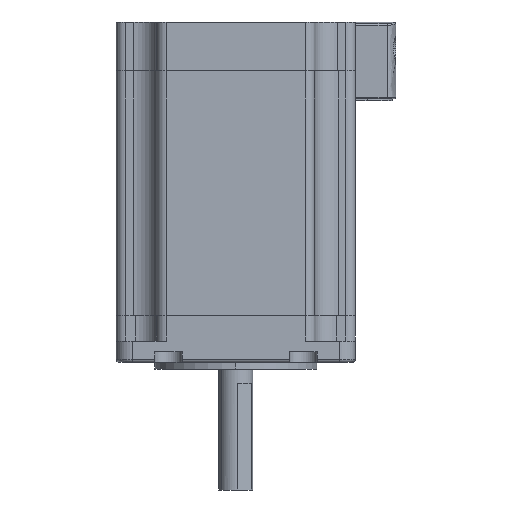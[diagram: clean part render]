
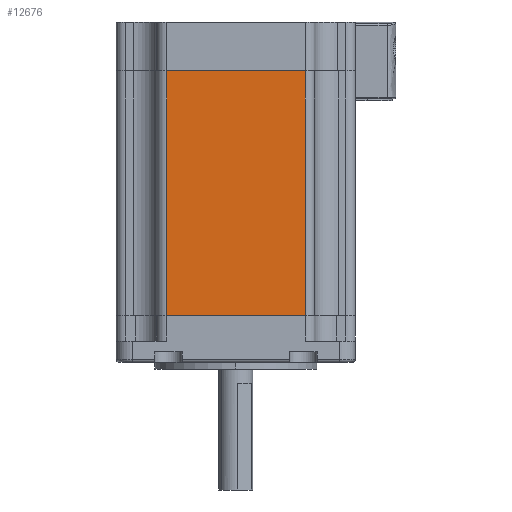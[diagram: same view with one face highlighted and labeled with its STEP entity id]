
A CAD part, left-side view. The second image highlights one B-rep face of the part: STEP entity #12676.
In plain terms, the highlighted planar face has unit normal (-1, 0, 0).
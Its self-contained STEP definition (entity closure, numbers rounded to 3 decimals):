
#793 = VECTOR ( 'NONE', #15087, 1000. ) ;
#926 = EDGE_CURVE ( 'NONE', #3632, #10192, #2895, .T. ) ;
#1395 = CARTESIAN_POINT ( 'NONE',  ( -28.1, -16.279, 28.75 ) ) ;
#1606 = VECTOR ( 'NONE', #4216, 1000. ) ;
#1623 = EDGE_CURVE ( 'NONE', #10003, #12478, #13769, .T. ) ;
#2321 = VECTOR ( 'NONE', #4103, 1000. ) ;
#2895 = LINE ( 'NONE', #1395, #1606 ) ;
#3548 = ORIENTED_EDGE ( 'NONE', *, *, #13575, .F. ) ;
#3632 = VERTEX_POINT ( 'NONE', #14050 ) ;
#3744 = CARTESIAN_POINT ( 'NONE',  ( -28.1, -16.279, -28.75 ) ) ;
#4103 = DIRECTION ( 'NONE',  ( 0., 1., 0. ) ) ;
#4216 = DIRECTION ( 'NONE',  ( 0., 0., -1. ) ) ;
#5122 = CARTESIAN_POINT ( 'NONE',  ( -28.1, 16.279, 28.75 ) ) ;
#5169 = ORIENTED_EDGE ( 'NONE', *, *, #8185, .T. ) ;
#5329 = LINE ( 'NONE', #11061, #2321 ) ;
#8185 = EDGE_CURVE ( 'NONE', #3632, #10003, #10745, .T. ) ;
#8337 = ORIENTED_EDGE ( 'NONE', *, *, #926, .F. ) ;
#8830 = CARTESIAN_POINT ( 'NONE',  ( -28.1, 16.279, 28.75 ) ) ;
#9204 = AXIS2_PLACEMENT_3D ( 'NONE', #12607, #16955, #17138 ) ;
#10003 = VERTEX_POINT ( 'NONE', #8830 ) ;
#10192 = VERTEX_POINT ( 'NONE', #3744 ) ;
#10259 = VECTOR ( 'NONE', #15075, 1000. ) ;
#10745 = LINE ( 'NONE', #14982, #10259 ) ;
#11061 = CARTESIAN_POINT ( 'NONE',  ( -28.1, 0., -28.75 ) ) ;
#11949 = CARTESIAN_POINT ( 'NONE',  ( -28.1, 16.279, -28.75 ) ) ;
#12478 = VERTEX_POINT ( 'NONE', #11949 ) ;
#12607 = CARTESIAN_POINT ( 'NONE',  ( -28.1, 0., 28.75 ) ) ;
#12676 = ADVANCED_FACE ( 'NONE', ( #17319 ), #14023, .T. ) ;
#13575 = EDGE_CURVE ( 'NONE', #10192, #12478, #5329, .T. ) ;
#13769 = LINE ( 'NONE', #5122, #793 ) ;
#14023 = PLANE ( 'NONE',  #9204 ) ;
#14050 = CARTESIAN_POINT ( 'NONE',  ( -28.1, -16.279, 28.75 ) ) ;
#14982 = CARTESIAN_POINT ( 'NONE',  ( -28.1, 0., 28.75 ) ) ;
#15075 = DIRECTION ( 'NONE',  ( 0., 1., 0. ) ) ;
#15087 = DIRECTION ( 'NONE',  ( 0., 0., -1. ) ) ;
#16955 = DIRECTION ( 'NONE',  ( -1., 0., 0. ) ) ;
#17088 = ORIENTED_EDGE ( 'NONE', *, *, #1623, .T. ) ;
#17138 = DIRECTION ( 'NONE',  ( 0., 0., 1. ) ) ;
#17319 = FACE_OUTER_BOUND ( 'NONE', #18084, .T. ) ;
#18084 = EDGE_LOOP ( 'NONE', ( #3548, #8337, #5169, #17088 ) ) ;
